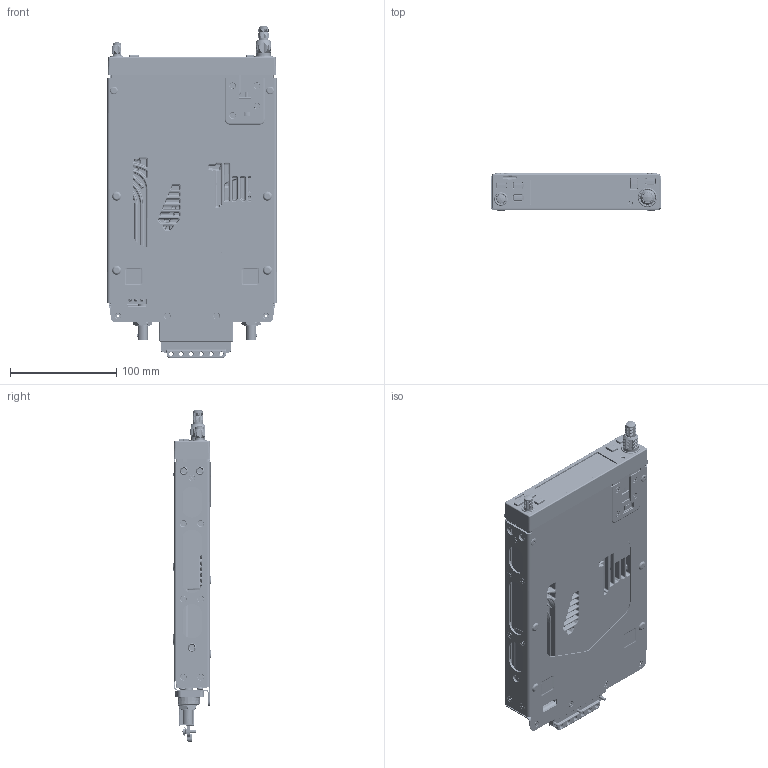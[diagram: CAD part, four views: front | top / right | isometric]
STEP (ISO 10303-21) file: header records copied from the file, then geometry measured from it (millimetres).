
FILE_DESCRIPTION (( 'STEP AP203' ), '1' );
FILE_NAME ('GNC215_011-05289-00_R[115-04497-00]_B[011-05691-10]_C[011-05779-10]_Rev1.STEP', '2024-02-07T15:27:49', ( '' ), ( '' ), 'SwSTEP 2.0', 'SolidWorks 2021', '' );
FILE_SCHEMA (( 'CONFIG_CONTROL_DESIGN' ));
Products named in the file (1): GNC215_011-05289-00_R[115-04497-00]_B[011-05691-10]_C[011-05779-10]_Rev1
Bounding box: 160.02 x 36.2 x 313.16 mm (x, y, z)
Volume: 1177140.7 mm3; surface area: 278865 mm2
Topology: 6 solids, 58 shells, 12291 faces, 27343 edges, 15373 vertices
Faces by surface type: plane 4039, cylinder 3088, cone 3060, bspline 1110, torus 740, sphere 254
Entity records: 372783 total; most frequent: CARTESIAN_POINT 117846, ORIENTED_EDGE 54278, DIRECTION 51859, EDGE_CURVE 27139, AXIS2_PLACEMENT_3D 21306, VERTEX_POINT 15372, EDGE_LOOP 12853, FACE_OUTER_BOUND 12291
